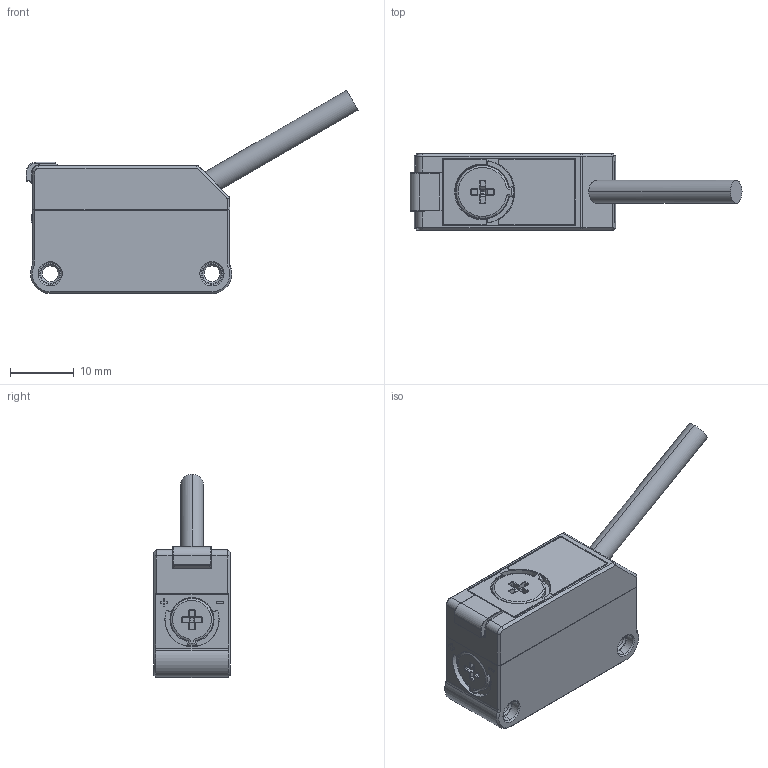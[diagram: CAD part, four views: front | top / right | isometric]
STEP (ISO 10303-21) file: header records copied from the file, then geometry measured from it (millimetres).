
FILE_DESCRIPTION((''),'2;1');
FILE_NAME('PE_PE_0001','2023-02-06T16:27:29',('wangyijun6'),(''),'CREO PARAMETRIC BY PTC INC, 2017260','CREO PARAMETRIC BY PTC INC, 2017260','');
FILE_SCHEMA(('CONFIG_CONTROL_DESIGN'));
Length unit declared in the file: millimetre
Products named in the file (1): PE_PE_0001
Bounding box: 52.12 x 12 x 31.9 mm (x, y, z)
Volume: 7322.6 mm3; surface area: 4552.8 mm2
Topology: 1 solids, 9 shells, 553 faces, 1454 edges, 937 vertices
Faces by surface type: plane 238, cylinder 139, cone 114, torus 34, bspline 25, sphere 3
Entity records: 18185 total; most frequent: CARTESIAN_POINT 4572, ORIENTED_EDGE 2894, DIRECTION 2788, EDGE_CURVE 1451, AXIS2_PLACEMENT_3D 1022, VERTEX_POINT 937, VECTOR 744, LINE 744
